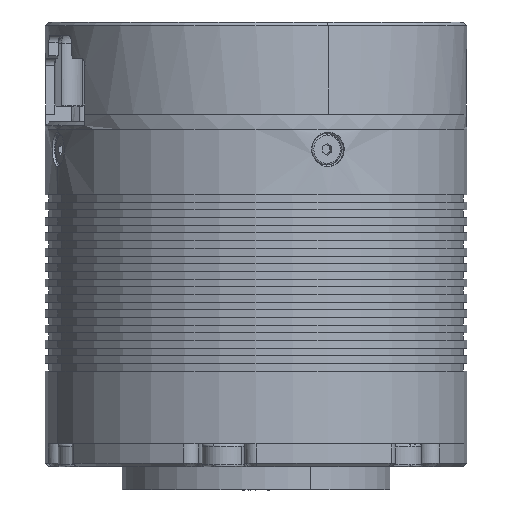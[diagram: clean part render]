
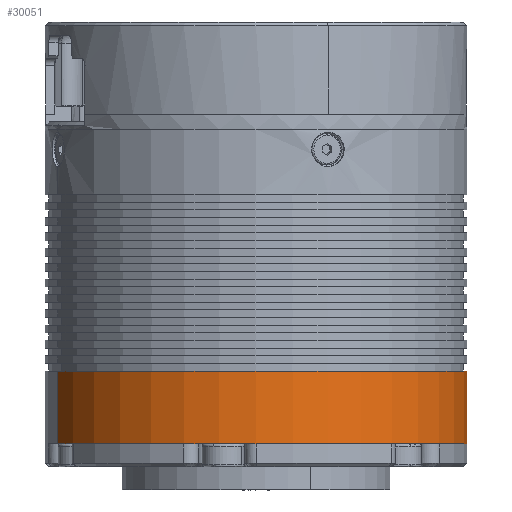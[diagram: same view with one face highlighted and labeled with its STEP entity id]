
A CAD part, front view. The second image highlights one B-rep face of the part: STEP entity #30051.
In plain terms, the highlighted cylindrical face has radius 27.5 mm (diameter 55 mm), a partial arc.
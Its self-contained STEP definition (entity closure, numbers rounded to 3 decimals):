
#521 = CIRCLE ( 'NONE', #33167, 27.5 ) ;
#633 = VECTOR ( 'NONE', #14220, 1000. ) ;
#1903 = CARTESIAN_POINT ( 'NONE',  ( 0., 0., -2. ) ) ;
#3097 = CARTESIAN_POINT ( 'NONE',  ( 27.5, 0., -2. ) ) ;
#3192 = AXIS2_PLACEMENT_3D ( 'NONE', #1903, #35774, #29367 ) ;
#3386 = FACE_OUTER_BOUND ( 'NONE', #21450, .T. ) ;
#5421 = VERTEX_POINT ( 'NONE', #5435 ) ;
#5435 = CARTESIAN_POINT ( 'NONE',  ( -27.5, 0., 7.5 ) ) ;
#5809 = LINE ( 'NONE', #14996, #633 ) ;
#6102 = LINE ( 'NONE', #39542, #9533 ) ;
#6820 = DIRECTION ( 'NONE',  ( -1., 0., 0. ) ) ;
#8089 = ORIENTED_EDGE ( 'NONE', *, *, #34822, .T. ) ;
#9533 = VECTOR ( 'NONE', #30539, 1000. ) ;
#10593 = EDGE_CURVE ( 'NONE', #18439, #39223, #5809, .T. ) ;
#12155 = CIRCLE ( 'NONE', #3192, 27.5 ) ;
#12284 = CARTESIAN_POINT ( 'NONE',  ( -27.5, 0., -2. ) ) ;
#12601 = CYLINDRICAL_SURFACE ( 'NONE', #16911, 27.5 ) ;
#13423 = DIRECTION ( 'NONE',  ( 0., 0., -1. ) ) ;
#13431 = ORIENTED_EDGE ( 'NONE', *, *, #19707, .T. ) ;
#14220 = DIRECTION ( 'NONE',  ( 0., 0., -1. ) ) ;
#14996 = CARTESIAN_POINT ( 'NONE',  ( 27.5, 0., 35.5 ) ) ;
#16911 = AXIS2_PLACEMENT_3D ( 'NONE', #24802, #36260, #28002 ) ;
#18439 = VERTEX_POINT ( 'NONE', #32952 ) ;
#19707 = EDGE_CURVE ( 'NONE', #20391, #39223, #12155, .T. ) ;
#20391 = VERTEX_POINT ( 'NONE', #12284 ) ;
#21450 = EDGE_LOOP ( 'NONE', ( #30239, #29980, #8089, #13431 ) ) ;
#24802 = CARTESIAN_POINT ( 'NONE',  ( 0., 0., 35.5 ) ) ;
#28002 = DIRECTION ( 'NONE',  ( -1., 0., 0. ) ) ;
#28039 = CARTESIAN_POINT ( 'NONE',  ( 0., 0., 7.5 ) ) ;
#29367 = DIRECTION ( 'NONE',  ( -1., 0., 0. ) ) ;
#29980 = ORIENTED_EDGE ( 'NONE', *, *, #34273, .T. ) ;
#30051 = ADVANCED_FACE ( 'NONE', ( #3386 ), #12601, .T. ) ;
#30239 = ORIENTED_EDGE ( 'NONE', *, *, #10593, .F. ) ;
#30539 = DIRECTION ( 'NONE',  ( 0., 0., -1. ) ) ;
#32952 = CARTESIAN_POINT ( 'NONE',  ( 27.5, 0., 7.5 ) ) ;
#33167 = AXIS2_PLACEMENT_3D ( 'NONE', #28039, #13423, #6820 ) ;
#34273 = EDGE_CURVE ( 'NONE', #18439, #5421, #521, .T. ) ;
#34822 = EDGE_CURVE ( 'NONE', #5421, #20391, #6102, .T. ) ;
#35774 = DIRECTION ( 'NONE',  ( 0., 0., 1. ) ) ;
#36260 = DIRECTION ( 'NONE',  ( 0., 0., -1. ) ) ;
#39223 = VERTEX_POINT ( 'NONE', #3097 ) ;
#39542 = CARTESIAN_POINT ( 'NONE',  ( -27.5, 0., 35.5 ) ) ;
